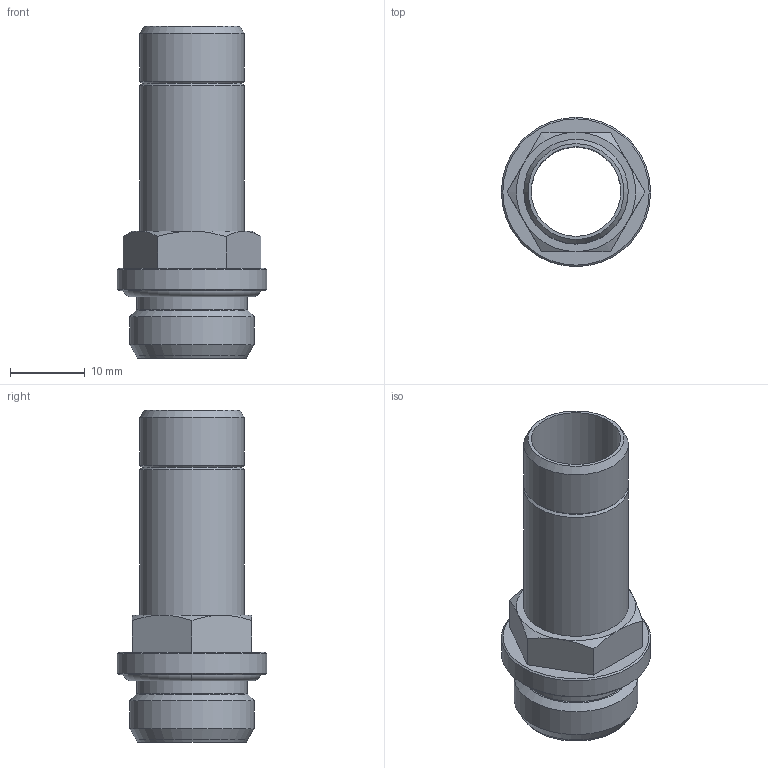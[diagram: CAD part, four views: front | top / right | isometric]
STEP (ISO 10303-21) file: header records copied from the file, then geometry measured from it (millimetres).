
FILE_DESCRIPTION(('Bauteilbeschreibung','HiCAD-Model','HiCAD-STEP-TRANSLATION','Bauteilbeschreibung'),'2;1');
FILE_NAME('B:/ABGLEICH/ZEICHNUNGEN/STEP FÜR INTERNET/STEP/IPSO 06/200616_IPSO_06_14_3-8.STP','2012-03-06T08:51:50+00:00',('Konstrukteur'),('Konstrukteur Firma GmbH'),' HiCAD neXt 2008, Step 3.1.1401.2J ','HiCAD neXt 2008','confidential');
FILE_SCHEMA(('AUTOMOTIVE_DESIGN { 1 2 10303 214 0 1 1 1 }'));
Length unit declared in the file: millimetre
Products named in the file (5): A00616_IPSO_06_14_3_8; A00616; A006160; G 3_8; OR 14X1_78
Assembly tree (4 placements, depth 3):
  A00616_IPSO_06_14_3_8
    A00616
    A006160
      G 3_8
    OR 14X1_78
Bounding box: 20 x 20 x 44.5 mm (x, y, z)
Volume: 3040.4 mm3; surface area: 5114.5 mm2
Topology: 3 solids, 3 shells, 43 faces, 94 edges, 57 vertices
Faces by surface type: cone 17, plane 12, cylinder 8, torus 6
Full cylindrical faces by diameter (mm): 12 x1, 14 x2, 14.75 x1, 14.95 x2, 16.662 x1, 20 x1
Entity records: 1394 total; most frequent: DIRECTION 194, CARTESIAN_POINT 187, ORIENTED_EDGE 128, AXIS2_PLACEMENT_3D 91, EDGE_LOOP 70, EDGE_CURVE 64, COLOUR_RGB 59, PRESENTATION_STYLE_ASSIGNMENT 59
